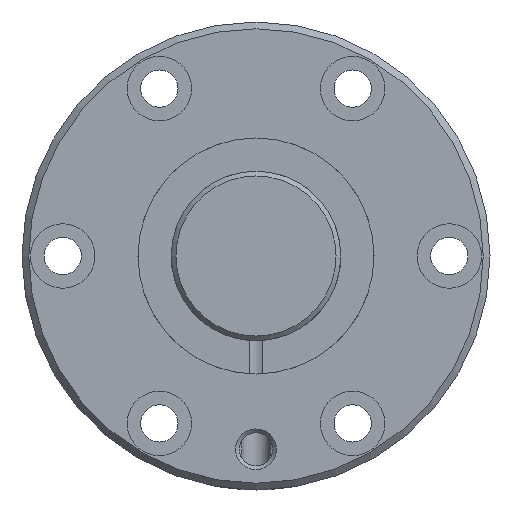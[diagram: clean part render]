
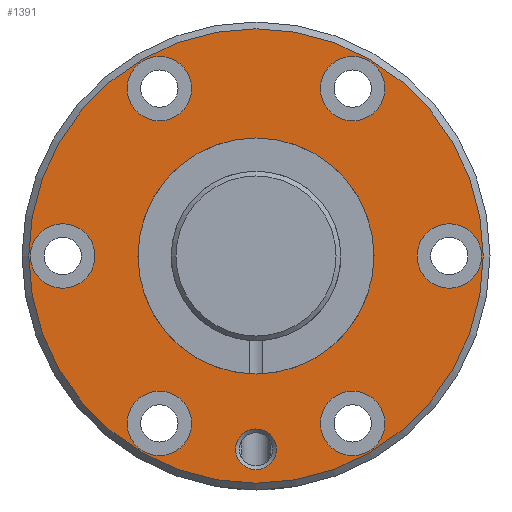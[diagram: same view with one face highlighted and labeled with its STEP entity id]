
A CAD part, left-side view. The second image highlights one B-rep face of the part: STEP entity #1391.
In plain terms, the highlighted planar face has unit normal (-1, 0, 0).
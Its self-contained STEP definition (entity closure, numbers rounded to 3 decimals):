
#303=ORIENTED_EDGE('',*,*,#624,.T.);
#304=ORIENTED_EDGE('',*,*,#646,.T.);
#305=ORIENTED_EDGE('',*,*,#647,.T.);
#306=ORIENTED_EDGE('',*,*,#648,.T.);
#307=ORIENTED_EDGE('',*,*,#649,.T.);
#308=ORIENTED_EDGE('',*,*,#650,.T.);
#309=ORIENTED_EDGE('',*,*,#651,.T.);
#310=ORIENTED_EDGE('',*,*,#652,.T.);
#311=ORIENTED_EDGE('',*,*,#645,.F.);
#624=EDGE_CURVE('',#800,#800,#901,.T.);
#645=EDGE_CURVE('',#819,#819,#904,.T.);
#646=EDGE_CURVE('',#820,#820,#905,.F.);
#647=EDGE_CURVE('',#821,#821,#906,.T.);
#648=EDGE_CURVE('',#822,#822,#907,.T.);
#649=EDGE_CURVE('',#823,#823,#908,.T.);
#650=EDGE_CURVE('',#824,#824,#909,.T.);
#651=EDGE_CURVE('',#825,#825,#910,.T.);
#652=EDGE_CURVE('',#826,#826,#911,.T.);
#800=VERTEX_POINT('',#2339);
#819=VERTEX_POINT('',#2423);
#820=VERTEX_POINT('',#2426);
#821=VERTEX_POINT('',#2428);
#822=VERTEX_POINT('',#2430);
#823=VERTEX_POINT('',#2432);
#824=VERTEX_POINT('',#2434);
#825=VERTEX_POINT('',#2436);
#826=VERTEX_POINT('',#2438);
#901=CIRCLE('',#1522,17.4);
#904=CIRCLE('',#1529,33.5);
#905=CIRCLE('',#1531,4.75);
#906=CIRCLE('',#1532,3.);
#907=CIRCLE('',#1533,4.75);
#908=CIRCLE('',#1534,4.75);
#909=CIRCLE('',#1535,4.75);
#910=CIRCLE('',#1536,4.75);
#911=CIRCLE('',#1537,4.75);
#1030=EDGE_LOOP('',(#303));
#1031=EDGE_LOOP('',(#304));
#1032=EDGE_LOOP('',(#305));
#1033=EDGE_LOOP('',(#306));
#1034=EDGE_LOOP('',(#307));
#1035=EDGE_LOOP('',(#308));
#1036=EDGE_LOOP('',(#309));
#1037=EDGE_LOOP('',(#310));
#1038=EDGE_LOOP('',(#311));
#1198=FACE_BOUND('',#1030,.T.);
#1199=FACE_BOUND('',#1031,.T.);
#1200=FACE_BOUND('',#1032,.T.);
#1201=FACE_BOUND('',#1033,.T.);
#1202=FACE_BOUND('',#1034,.T.);
#1203=FACE_BOUND('',#1035,.T.);
#1204=FACE_BOUND('',#1036,.T.);
#1205=FACE_BOUND('',#1037,.T.);
#1206=FACE_BOUND('',#1038,.T.);
#1337=PLANE('',#1530);
#1391=ADVANCED_FACE('',(#1198,#1199,#1200,#1201,#1202,#1203,#1204,#1205,
#1206),#1337,.T.);
#1522=AXIS2_PLACEMENT_3D('',#2338,#1787,#1788);
#1529=AXIS2_PLACEMENT_3D('',#2422,#1815,#1816);
#1530=AXIS2_PLACEMENT_3D('',#2424,#1817,#1818);
#1531=AXIS2_PLACEMENT_3D('',#2425,#1819,#1820);
#1532=AXIS2_PLACEMENT_3D('',#2427,#1821,#1822);
#1533=AXIS2_PLACEMENT_3D('',#2429,#1823,#1824);
#1534=AXIS2_PLACEMENT_3D('',#2431,#1825,#1826);
#1535=AXIS2_PLACEMENT_3D('',#2433,#1827,#1828);
#1536=AXIS2_PLACEMENT_3D('',#2435,#1829,#1830);
#1537=AXIS2_PLACEMENT_3D('',#2437,#1831,#1832);
#1787=DIRECTION('',(1.,0.,0.));
#1788=DIRECTION('',(0.,0.,-1.));
#1815=DIRECTION('',(1.,0.,0.));
#1816=DIRECTION('',(0.,0.,-1.));
#1817=DIRECTION('',(-1.,0.,0.));
#1818=DIRECTION('',(0.,0.,1.));
#1819=DIRECTION('',(-1.,0.,0.));
#1820=DIRECTION('',(0.,0.,1.));
#1821=DIRECTION('',(1.,0.,0.));
#1822=DIRECTION('',(0.,0.,-1.));
#1823=DIRECTION('',(1.,0.,0.));
#1824=DIRECTION('',(0.,0.,-1.));
#1825=DIRECTION('',(1.,0.,0.));
#1826=DIRECTION('',(0.,0.,-1.));
#1827=DIRECTION('',(1.,0.,0.));
#1828=DIRECTION('',(0.,0.,-1.));
#1829=DIRECTION('',(1.,0.,0.));
#1830=DIRECTION('',(0.,0.,-1.));
#1831=DIRECTION('',(1.,0.,0.));
#1832=DIRECTION('',(0.,0.,-1.));
#2338=CARTESIAN_POINT('',(0.,0.,0.));
#2339=CARTESIAN_POINT('',(0.,0.,-17.4));
#2422=CARTESIAN_POINT('',(0.,0.,0.));
#2423=CARTESIAN_POINT('',(0.,0.,-33.5));
#2424=CARTESIAN_POINT('',(0.,33.5,0.));
#2425=CARTESIAN_POINT('',(0.,28.5,0.));
#2426=CARTESIAN_POINT('',(0.,28.5,4.75));
#2427=CARTESIAN_POINT('',(0.,0.,-28.5));
#2428=CARTESIAN_POINT('',(0.,0.,-31.5));
#2429=CARTESIAN_POINT('',(0.,14.25,24.682));
#2430=CARTESIAN_POINT('',(0.,14.25,19.932));
#2431=CARTESIAN_POINT('',(0.,-14.25,-24.682));
#2432=CARTESIAN_POINT('',(0.,-14.25,-29.432));
#2433=CARTESIAN_POINT('',(0.,-14.25,24.682));
#2434=CARTESIAN_POINT('',(0.,-14.25,19.932));
#2435=CARTESIAN_POINT('',(0.,14.25,-24.682));
#2436=CARTESIAN_POINT('',(0.,14.25,-29.432));
#2437=CARTESIAN_POINT('',(0.,-28.5,0.));
#2438=CARTESIAN_POINT('',(0.,-28.5,-4.75));
